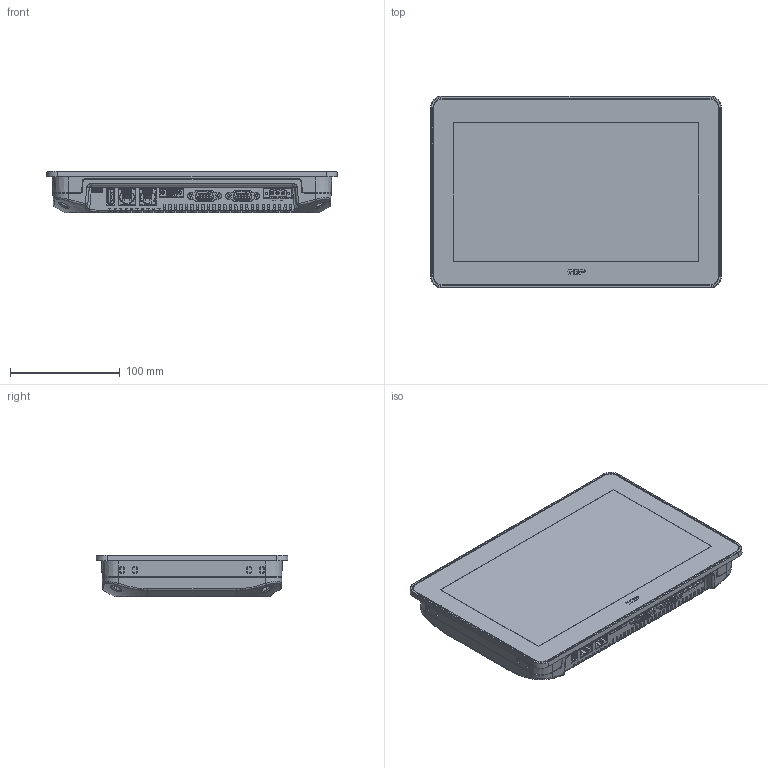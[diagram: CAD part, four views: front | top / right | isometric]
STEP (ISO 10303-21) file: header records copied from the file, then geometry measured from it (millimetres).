
FILE_DESCRIPTION((''),'2;1');
FILE_NAME('TOPRB1000WD','2026-05-27T17:44:44',('이형우'),(''),'CREO PARAMETRIC BY PTC INC, 2024153','CREO PARAMETRIC BY PTC INC, 2024153','');
FILE_SCHEMA(('CONFIG_CONTROL_DESIGN'));
Products named in the file (1): TOPRB1000WD
Bounding box: 265 x 175 x 38 mm (x, y, z)
Volume: 1415675.8 mm3; surface area: 149418.2 mm2
Topology: 1 solids, 1 shells, 3893 faces, 10905 edges, 7182 vertices
Faces by surface type: plane 2671, cylinder 842, extrusion 131, cone 114, bspline 89, torus 33, sphere 13
Entity records: 135109 total; most frequent: CARTESIAN_POINT 37167, ORIENTED_EDGE 21794, DIRECTION 17850, EDGE_CURVE 10897, VECTOR 8198, LINE 8067, VERTEX_POINT 7182, AXIS2_PLACEMENT_3D 4826
